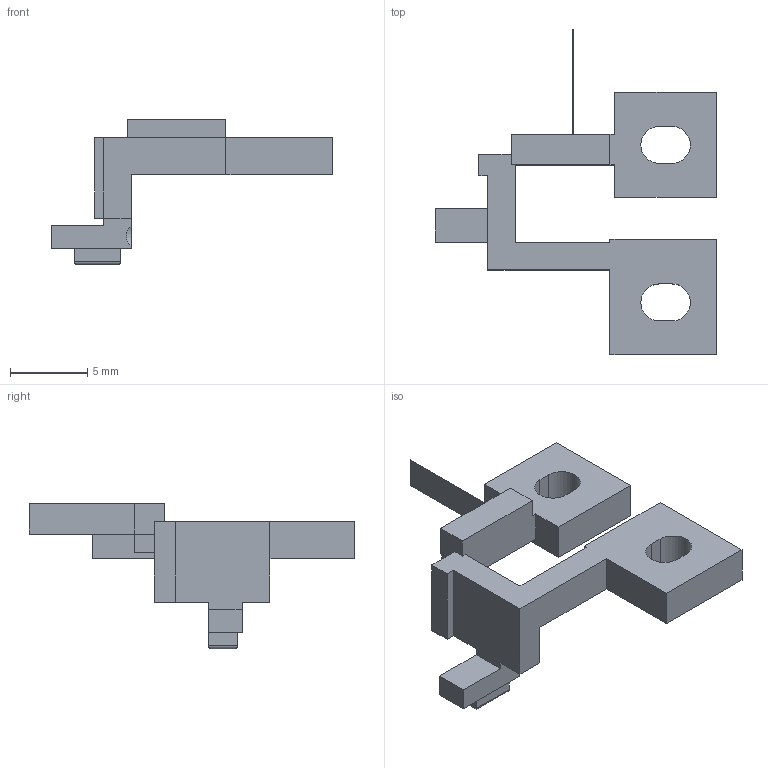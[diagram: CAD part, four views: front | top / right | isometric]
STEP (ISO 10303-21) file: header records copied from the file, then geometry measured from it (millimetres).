
FILE_DESCRIPTION(('Open CASCADE Model'),'2;1');
FILE_NAME('Open CASCADE Shape Model','2026-09-21T11:06:42',('Author'),( 'Open CASCADE'),'Open CASCADE STEP processor 7.7','Open CASCADE 7.7' ,'Unknown');
FILE_SCHEMA(('AUTOMOTIVE_DESIGN { 1 0 10303 214 1 1 1 1 }'));
Length unit declared in the file: millimetre
Products named in the file (1): Open CASCADE STEP translator 7.7 6
Bounding box: 18.2 x 21.1 x 9.42 mm (x, y, z)
Volume: 368.9 mm3; surface area: 666.3 mm2
Topology: 1 solids, 1 shells, 57 faces, 161 edges, 106 vertices
Faces by surface type: plane 47, cylinder 8, sphere 2
Entity records: 4032 total; most frequent: CARTESIAN_POINT 895, DIRECTION 543, LINE 385, VECTOR 385, ORIENTED_EDGE 322, PCURVE 322, DEFINITIONAL_REPRESENTATION 322, EDGE_CURVE 161
